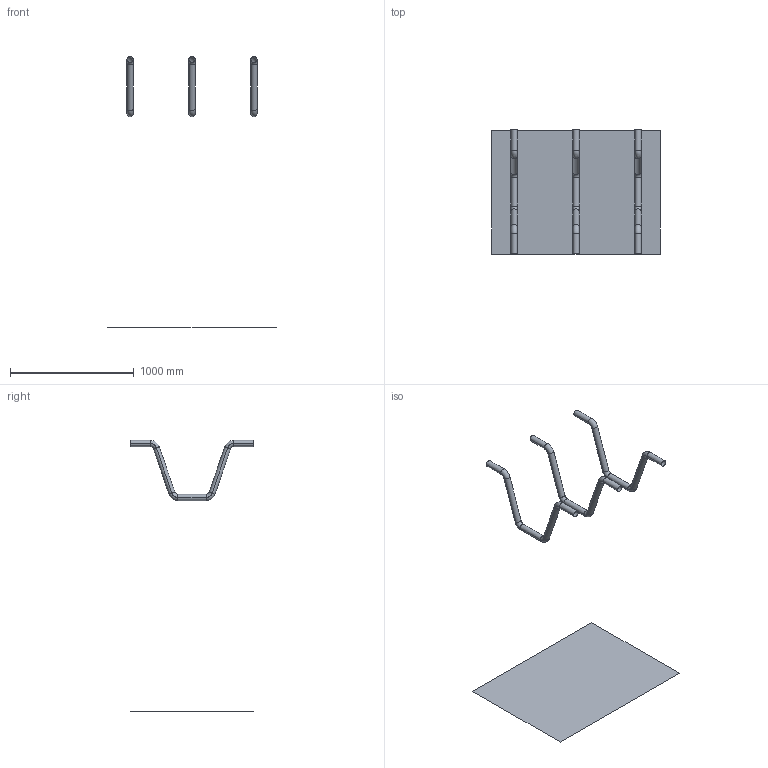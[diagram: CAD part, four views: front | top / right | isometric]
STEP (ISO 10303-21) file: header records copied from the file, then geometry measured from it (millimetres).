
FILE_DESCRIPTION(('CATIA V5 STEP Exchange'),'2;1');
FILE_NAME('C:\_Andres\UNIVERSIDAD\IQS\ASIGNATURAS\DAO\EXF\EXF-16172c\2inicio\Villarroya_Marquina_Ej08_v36.stp','2017-03-05T21:54:59+00:00',('none'),('none'),'CATIA Version 5-6 Release 2014 SP1 HF18','CATIA V5 STEP AP203','none');
FILE_SCHEMA(('CONFIG_CONTROL_DESIGN'));
Length unit declared in the file: millimetre
Products named in the file (1): Villarroya_Marquina_Ej08_v36
Bounding box: 1360 x 1000 x 2189 mm (x, y, z)
Surface area: 2106751.4 mm2 (no closed solid volume)
Topology: 0 solids, 4 shells, 55 faces, 118 edges, 64 vertices
Faces by surface type: cylinder 30, torus 24, plane 1
Entity records: 1283 total; most frequent: ORIENTED_EDGE 220, CARTESIAN_POINT 208, DIRECTION 168, EDGE_CURVE 118, AXIS2_PLACEMENT_3D 110, CIRCLE 84, VERTEX_POINT 64, ADVANCED_FACE 55
